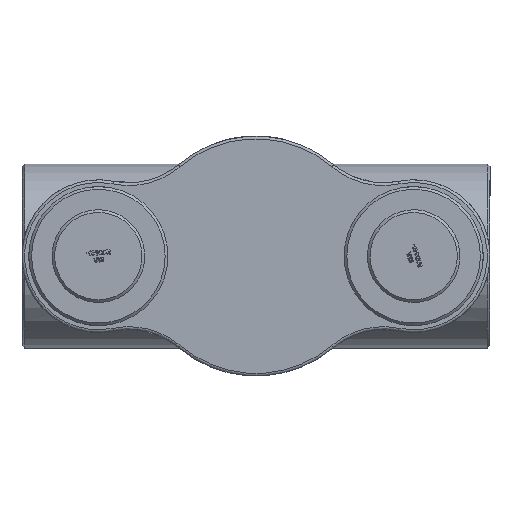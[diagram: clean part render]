
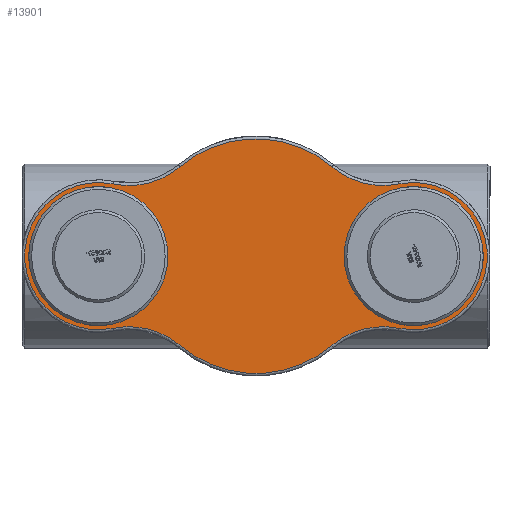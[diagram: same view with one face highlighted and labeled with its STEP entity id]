
A CAD part, front view. The second image highlights one B-rep face of the part: STEP entity #13901.
In plain terms, the highlighted planar face has unit normal (0, -1, 0) as drawn and (0, 0, -1) by its records, which use the part's own axes.
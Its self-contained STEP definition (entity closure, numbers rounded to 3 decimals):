
#3636=PLANE('',#14803);
#4066=FACE_BOUND('',#4985,.T.);
#4067=FACE_BOUND('',#4986,.T.);
#4171=FACE_OUTER_BOUND('',#4984,.T.);
#4984=EDGE_LOOP('',(#9632,#9633,#9634,#9635,#9636,#9637,#9638,#9639));
#4985=EDGE_LOOP('',(#9640));
#4986=EDGE_LOOP('',(#9641));
#5900=CIRCLE('',#14802,93.5);
#5901=CIRCLE('',#14804,135.);
#5902=CIRCLE('',#14805,145.);
#5903=CIRCLE('',#14806,215.);
#5904=CIRCLE('',#14807,145.);
#5905=CIRCLE('',#14808,135.);
#5906=CIRCLE('',#14809,145.);
#5907=CIRCLE('',#14810,215.);
#5908=CIRCLE('',#14811,145.);
#5909=CIRCLE('',#14812,93.5);
#6090=VERTEX_POINT('',#18347);
#6091=VERTEX_POINT('',#18350);
#6092=VERTEX_POINT('',#18351);
#6093=VERTEX_POINT('',#18353);
#6094=VERTEX_POINT('',#18355);
#6095=VERTEX_POINT('',#18357);
#6096=VERTEX_POINT('',#18359);
#6097=VERTEX_POINT('',#18361);
#6098=VERTEX_POINT('',#18363);
#6099=VERTEX_POINT('',#18366);
#7506=EDGE_CURVE('',#6090,#6090,#5900,.T.);
#7507=EDGE_CURVE('',#6091,#6092,#5901,.T.);
#7508=EDGE_CURVE('',#6093,#6091,#5902,.T.);
#7509=EDGE_CURVE('',#6094,#6093,#5903,.T.);
#7510=EDGE_CURVE('',#6095,#6094,#5904,.T.);
#7511=EDGE_CURVE('',#6096,#6095,#5905,.T.);
#7512=EDGE_CURVE('',#6097,#6096,#5906,.T.);
#7513=EDGE_CURVE('',#6098,#6097,#5907,.T.);
#7514=EDGE_CURVE('',#6092,#6098,#5908,.T.);
#7515=EDGE_CURVE('',#6099,#6099,#5909,.T.);
#9632=ORIENTED_EDGE('',*,*,#7507,.F.);
#9633=ORIENTED_EDGE('',*,*,#7508,.F.);
#9634=ORIENTED_EDGE('',*,*,#7509,.F.);
#9635=ORIENTED_EDGE('',*,*,#7510,.F.);
#9636=ORIENTED_EDGE('',*,*,#7511,.F.);
#9637=ORIENTED_EDGE('',*,*,#7512,.F.);
#9638=ORIENTED_EDGE('',*,*,#7513,.F.);
#9639=ORIENTED_EDGE('',*,*,#7514,.F.);
#9640=ORIENTED_EDGE('',*,*,#7515,.F.);
#9641=ORIENTED_EDGE('',*,*,#7506,.F.);
#13901=ADVANCED_FACE('',(#4171,#4066,#4067),#3636,.F.);
#14802=AXIS2_PLACEMENT_3D('',#18348,#15561,#15562);
#14803=AXIS2_PLACEMENT_3D('',#18349,#15563,#15564);
#14804=AXIS2_PLACEMENT_3D('',#18352,#15565,#15566);
#14805=AXIS2_PLACEMENT_3D('',#18354,#15567,#15568);
#14806=AXIS2_PLACEMENT_3D('',#18356,#15569,#15570);
#14807=AXIS2_PLACEMENT_3D('',#18358,#15571,#15572);
#14808=AXIS2_PLACEMENT_3D('',#18360,#15573,#15574);
#14809=AXIS2_PLACEMENT_3D('',#18362,#15575,#15576);
#14810=AXIS2_PLACEMENT_3D('',#18364,#15577,#15578);
#14811=AXIS2_PLACEMENT_3D('',#18365,#15579,#15580);
#14812=AXIS2_PLACEMENT_3D('',#18367,#15581,#15582);
#15561=DIRECTION('center_axis',(0.,0.,-1.));
#15562=DIRECTION('ref_axis',(1.,0.,0.));
#15563=DIRECTION('center_axis',(0.,0.,1.));
#15564=DIRECTION('ref_axis',(1.,0.,0.));
#15565=DIRECTION('center_axis',(0.,0.,1.));
#15566=DIRECTION('ref_axis',(-1.,0.,0.));
#15567=DIRECTION('center_axis',(0.,0.,-1.));
#15568=DIRECTION('ref_axis',(0.249,-0.969,0.));
#15569=DIRECTION('center_axis',(0.,0.,1.));
#15570=DIRECTION('ref_axis',(0.,1.,0.));
#15571=DIRECTION('center_axis',(0.,0.,-1.));
#15572=DIRECTION('ref_axis',(-0.249,-0.969,0.));
#15573=DIRECTION('center_axis',(0.,0.,1.));
#15574=DIRECTION('ref_axis',(1.,0.,0.));
#15575=DIRECTION('center_axis',(0.,0.,-1.));
#15576=DIRECTION('ref_axis',(-0.249,0.969,0.));
#15577=DIRECTION('center_axis',(0.,0.,1.));
#15578=DIRECTION('ref_axis',(0.,-1.,0.));
#15579=DIRECTION('center_axis',(0.,0.,-1.));
#15580=DIRECTION('ref_axis',(0.249,0.969,0.));
#15581=DIRECTION('center_axis',(0.,0.,-1.));
#15582=DIRECTION('ref_axis',(1.,0.,0.));
#18347=CARTESIAN_POINT('',(195.5,0.,0.));
#18348=CARTESIAN_POINT('Origin',(289.,0.,0.));
#18349=CARTESIAN_POINT('Origin',(0.,0.,
0.));
#18350=CARTESIAN_POINT('',(-262.039,132.28,0.));
#18351=CARTESIAN_POINT('',(-262.039,-132.28,0.));
#18352=CARTESIAN_POINT('Origin',(-289.,0.,0.));
#18353=CARTESIAN_POINT('',(-139.201,163.854,0.));
#18354=CARTESIAN_POINT('Origin',(-233.081,274.359,0.));
#18355=CARTESIAN_POINT('',(139.201,163.854,0.));
#18356=CARTESIAN_POINT('Origin',(0.,0.,0.));
#18357=CARTESIAN_POINT('',(262.039,132.28,0.));
#18358=CARTESIAN_POINT('Origin',(233.081,274.359,0.));
#18359=CARTESIAN_POINT('',(262.039,-132.28,0.));
#18360=CARTESIAN_POINT('Origin',(289.,0.,0.));
#18361=CARTESIAN_POINT('',(139.201,-163.854,0.));
#18362=CARTESIAN_POINT('Origin',(233.081,-274.359,0.));
#18363=CARTESIAN_POINT('',(-139.201,-163.854,0.));
#18364=CARTESIAN_POINT('Origin',(0.,0.,0.));
#18365=CARTESIAN_POINT('Origin',(-233.081,-274.359,0.));
#18366=CARTESIAN_POINT('',(-382.5,0.,0.));
#18367=CARTESIAN_POINT('Origin',(-289.,0.,0.));
